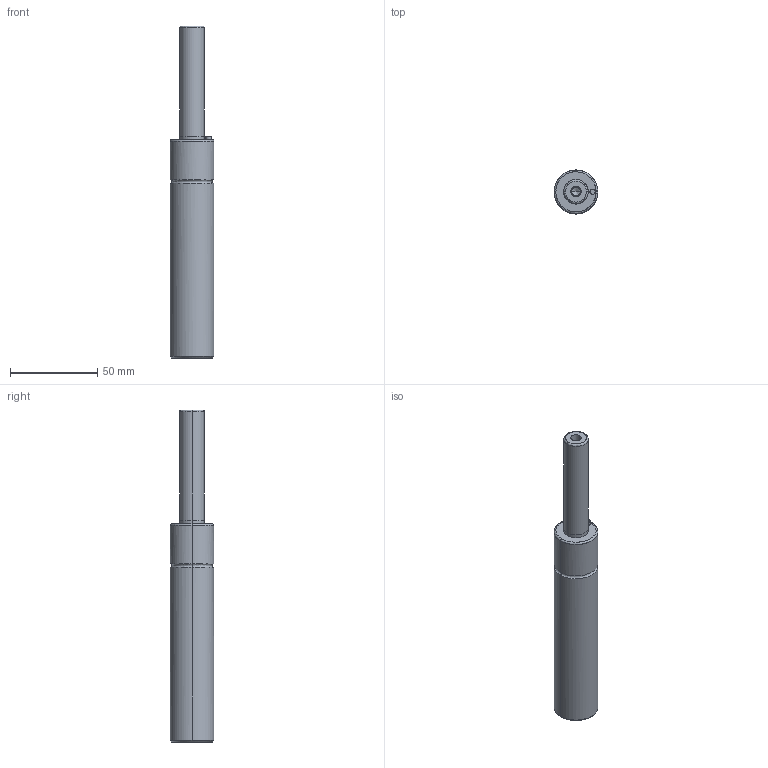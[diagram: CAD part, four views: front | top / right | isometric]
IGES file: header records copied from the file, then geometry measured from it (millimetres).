
Global section: file name: E:\UnigraphicsGraphicData\MISUMI_PRESS-PARTS\IGES\3d_gsm25-63_03943_r00.igs; native system: NX V5.0; preprocessor: UGS NX IGES V5.0; author: MISUMI; date: 20110105.160808; units: millimetre
Bounding box: 25 x 24.98 x 190 mm (x, y, z)
Surface area: 14020.4 mm2 (no closed solid volume)
Topology: 0 solids, 0 shells, 36 faces, 216 edges, 212 vertices
Faces by surface type: bspline 36
